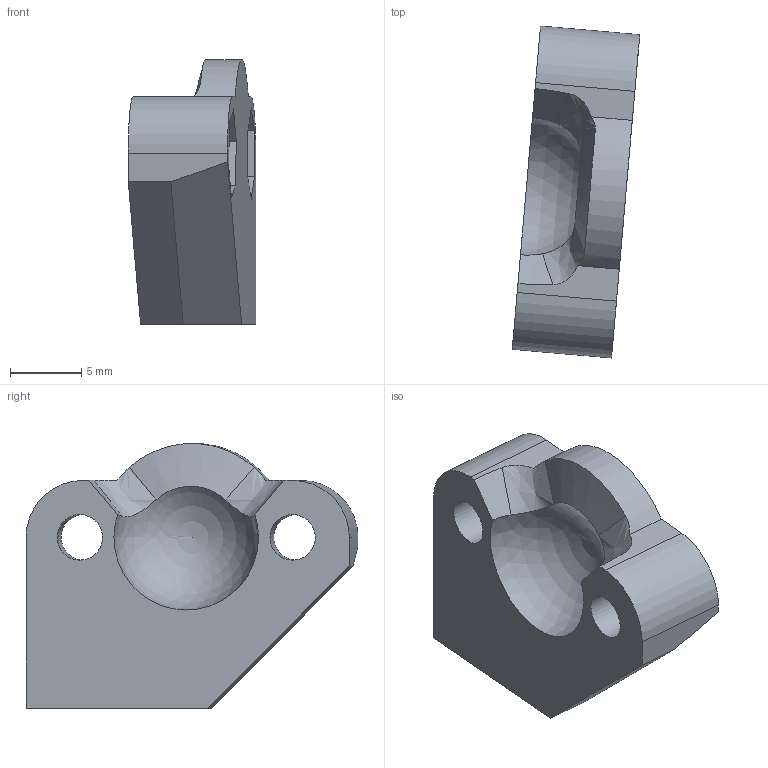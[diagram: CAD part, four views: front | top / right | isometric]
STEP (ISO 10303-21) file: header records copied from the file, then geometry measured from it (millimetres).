
FILE_DESCRIPTION(/* description */ (''),/* implementation_level */ '2;1');
FILE_NAME(/* name */ '4-42-1 Upper wheel socket right.step',/* time_stamp */ '2025-05-10T22:20:34+02:00',/* author */ (''),/* organization */ (''),/* preprocessor_version */ 'ST-DEVELOPER v20.1',/* originating_system */ 'Autodesk Translation Framework v14.4.0.0',/* authorisation */ '');
FILE_SCHEMA (('AUTOMOTIVE_DESIGN { 1 0 10303 214 3 1 1 }'));
Length unit declared in the file: millimetre
Products named in the file (1): Upper wheel socket right
Bounding box: 8.96 x 23.32 x 18.58 mm (x, y, z)
Volume: 1534.3 mm3; surface area: 1386.5 mm2
Topology: 1 solids, 1 shells, 48 faces, 138 edges, 92 vertices
Faces by surface type: plane 34, cylinder 6, cone 5, bspline 2, sphere 1
Full cylindrical faces by diameter (mm): 3.2 x2, 4.1 x1
Entity records: 1671 total; most frequent: CARTESIAN_POINT 406, ORIENTED_EDGE 274, DIRECTION 237, EDGE_CURVE 137, VERTEX_POINT 92, LINE 79, VECTOR 79, AXIS2_PLACEMENT_3D 79
